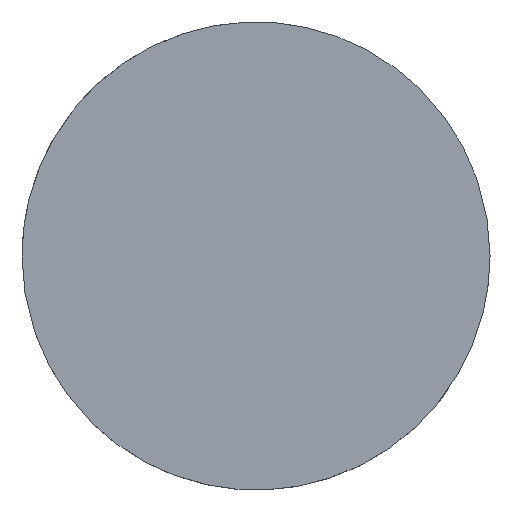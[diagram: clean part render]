
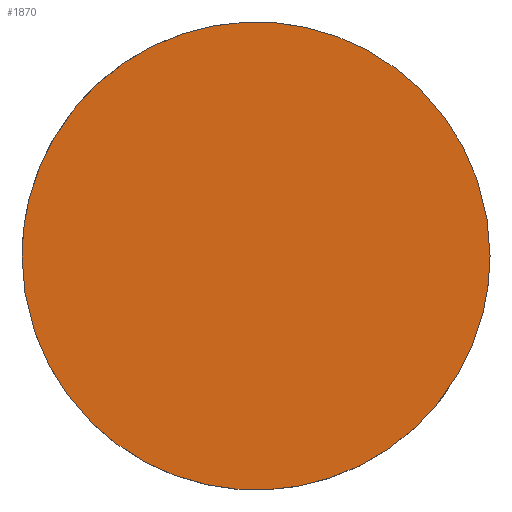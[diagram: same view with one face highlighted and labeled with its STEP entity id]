
A CAD part, top view. The second image highlights one B-rep face of the part: STEP entity #1870.
In plain terms, the highlighted planar face has unit normal (0, 0, 1).
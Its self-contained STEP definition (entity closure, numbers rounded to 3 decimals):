
#190 = CARTESIAN_POINT ('', (-25.4, 0., 0.));
#200 = VERTEX_POINT ('', #190);
#260 = CARTESIAN_POINT ('', (25.4, 0., 0.));
#270 = VERTEX_POINT ('', #260);
#280 = CARTESIAN_POINT ('', (25.4, 0., 0.));
#290 = CARTESIAN_POINT ('', (25.4, 25.4, 0.));
#300 = CARTESIAN_POINT ('', (0., 25.4, 0.));
#310 = CARTESIAN_POINT ('', (-25.4, 25.4, 0.));
#320 = CARTESIAN_POINT ('', (-25.4, 0., 0.));
#330 = (
   BOUNDED_CURVE ()
   B_SPLINE_CURVE (2, (#280, #290, #300, #310, #320), .UNSPECIFIED., .F., .U.)
   B_SPLINE_CURVE_WITH_KNOTS ((3, 2, 3), (0., 1.571, 3.142), .UNSPECIFIED.)
   CURVE ()
   GEOMETRIC_REPRESENTATION_ITEM ()
   RATIONAL_B_SPLINE_CURVE ((1., 0.707, 1., 0.707, 1.))
   REPRESENTATION_ITEM ('')
);
#340 = EDGE_CURVE ('', #270, #200, #330, .T.);
#580 = CARTESIAN_POINT ('', (-25.4, 0., 0.));
#590 = CARTESIAN_POINT ('', (-25.4, -25.4, 0.));
#600 = CARTESIAN_POINT ('', (0., -25.4, 0.));
#610 = CARTESIAN_POINT ('', (25.4, -25.4, 0.));
#620 = CARTESIAN_POINT ('', (25.4, 0., 0.));
#630 = (
   BOUNDED_CURVE ()
   B_SPLINE_CURVE (2, (#580, #590, #600, #610, #620), .UNSPECIFIED., .F., .U.)
   B_SPLINE_CURVE_WITH_KNOTS ((3, 2, 3), (3.142, 4.712, 6.283), .UNSPECIFIED.)
   CURVE ()
   GEOMETRIC_REPRESENTATION_ITEM ()
   RATIONAL_B_SPLINE_CURVE ((1., 0.707, 1., 0.707, 1.))
   REPRESENTATION_ITEM ('')
);
#640 = EDGE_CURVE ('', #200, #270, #630, .T.);
#1780 = ORIENTED_EDGE ('', *, *, #340, .T.);
#1790 = ORIENTED_EDGE ('', *, *, #640, .T.);
#1800 = EDGE_LOOP ('', (#1780, #1790));
#1810 = FACE_OUTER_BOUND ('', #1800, .T.);
#1820 = CARTESIAN_POINT ('', (0., 52.02, 0.));
#1830 = DIRECTION ('', (0., 0., 1.));
#1840 = DIRECTION ('', (-0.707, -0.707, 0.));
#1850 = AXIS2_PLACEMENT_3D ('', #1820, #1830, #1840);
#1860 = PLANE ('', #1850);
#1870 = ADVANCED_FACE ('', (#1810), #1860, .T.);
